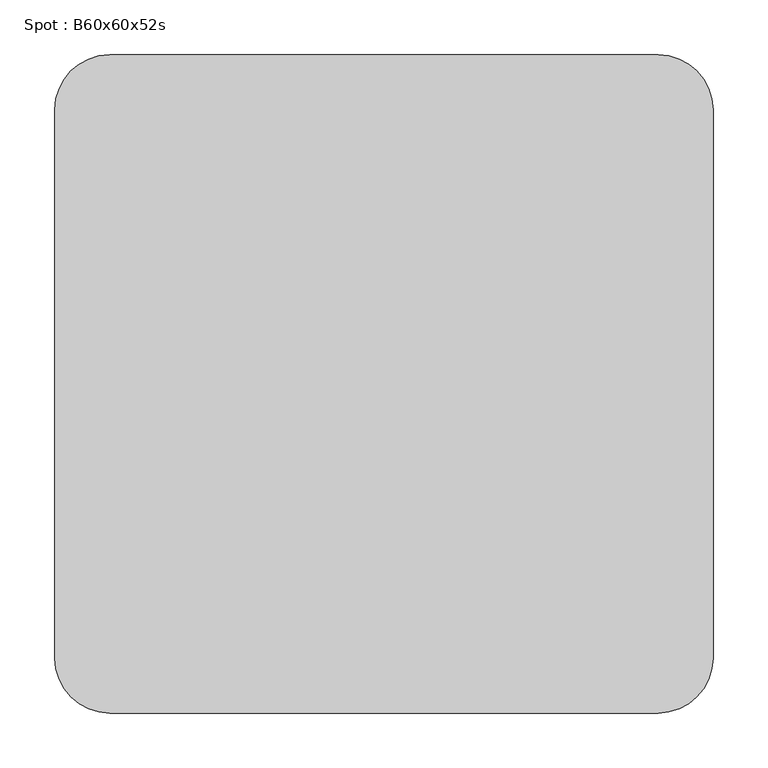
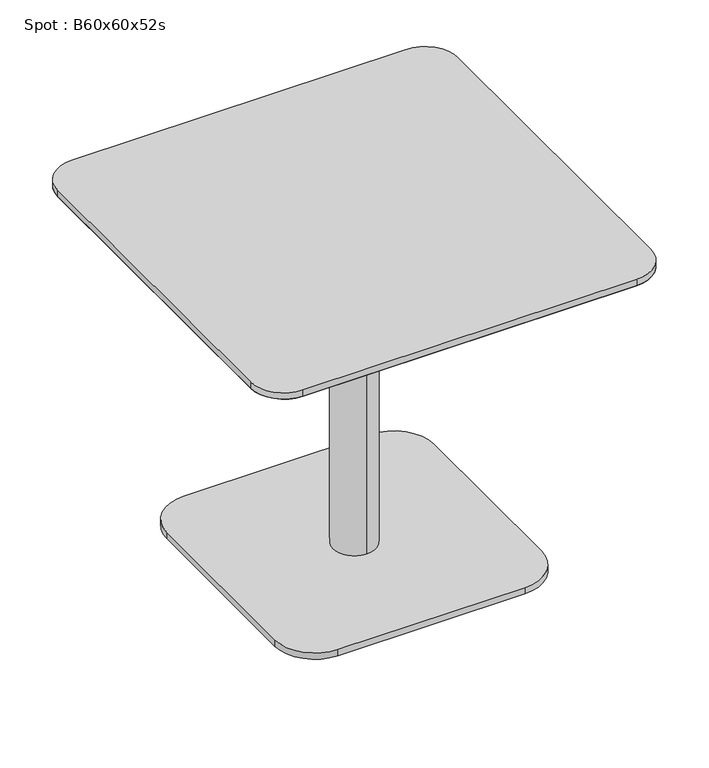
"""IFC4 building model written with IfcOpenShell, lengths in millimetres: furniture geometry, Spot : B60x60x52s."""

from ifc_helpers import new_model, si_unit, point, frame, frame_2d, origin, origin_with_axes, place, context, project, spatial, polyline, circle_curve, trimmed, segment, composite_curve, outline, extrude, source, transform, mapped, element, save
from ifc_brep_helpers import plane_surface, cylinder_surface, revolved_surface, advanced_brep


def spot_b60x60x52s_51aa52b7(model_context):
    return source(origin(), model_context, "Body", "SolidModel", [
        advanced_brep(
        [(-250.0, -250.0, 498.0), (-250.0, 250.0, 498.0), (250.0, 250.0, 498.0), (250.0, -250.0, 498.0), (-300.0, -250.0, 510.0), (-250.0, -300.0, 510.0), (250.0, -300.0, 510.0), (300.0, -250.0, 510.0), (300.0, 250.0, 510.0), (250.0, 300.0, 510.0), (-250.0, 300.0, 510.0), (-300.0, 250.0, 510.0)],
        [
            (0, 1),
            (1, 2),
            (2, 3),
            (3, 0),
            (4, 5, circle_curve(frame((-250.0, -250.0, 510.0), z_axis=(0.0, 0.0, 1.0), x_axis=(0.0, -1.0, 0.0)), 50.0)),
            (5, 6),
            (6, 7, circle_curve(frame((250.0, -250.0, 510.0), z_axis=(0.0, 0.0, 1.0), x_axis=(1.0, 0.0, 0.0)), 50.0)),
            (7, 8),
            (8, 9, circle_curve(frame((250.0, 250.0, 510.0), z_axis=(0.0, 0.0, 1.0), x_axis=(0.0, 1.0, 0.0)), 50.0)),
            (9, 10),
            (10, 11, circle_curve(frame((-250.0, 250.0, 510.0), z_axis=(0.0, 0.0, 1.0), x_axis=(-1.0, 0.0, 0.0)), 50.0)),
            (11, 4),
            (4, 0),
            (0, 5),
            (3, 6),
            (3, 7),
            (2, 8),
            (2, 9),
            (1, 10),
            (1, 11),
        ],
        [
            plane_surface(frame((0.0, 0.0, 498.0), z_axis=(0.0, 0.0, -1.0), x_axis=(-1.0, 0.0, 0.0))),
            plane_surface(frame((0.0, 0.0, 510.0), z_axis=(0.0, 0.0, 1.0), x_axis=(-1.0, 0.0, 0.0))),
            revolved_surface(polyline([(-250.0, -250.0, 498.0), (-250.0, -300.0, 510.0)]), (-250.0, -250.0, 498.0), (0.0, 0.0, 1.0)),
            plane_surface(frame((0.0, -300.0, 510.0), z_axis=(0.0, -0.23337295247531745, -0.9723873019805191), x_axis=(-1.0, 0.0, 0.0))),
            revolved_surface(polyline([(250.0, -250.0, 498.0), (300.0, -250.0, 510.0)]), (250.0, -250.0, 498.0), (0.0, 0.0, 1.0)),
            plane_surface(frame((300.0, 0.0, 510.0), z_axis=(0.23337295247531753, 0.0, -0.9723873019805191), x_axis=(0.0, -1.0, 0.0))),
            revolved_surface(polyline([(250.0, 250.0, 498.0), (250.0, 300.0, 510.0)]), (250.0, 250.0, 498.0), (0.0, 0.0, 1.0)),
            plane_surface(frame((0.0, 300.0, 510.0), z_axis=(0.0, 0.23337295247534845, -0.9723873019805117), x_axis=(1.0, 0.0, 0.0))),
            revolved_surface(polyline([(-250.0, 250.0, 498.0), (-300.0, 250.0, 510.0)]), (-250.0, 250.0, 498.0), (0.0, 0.0, 1.0)),
            plane_surface(frame((-300.0, 0.0, 510.0), z_axis=(-0.2333729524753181, 0.0, -0.9723873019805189), x_axis=(0.0, 1.0, 0.0))),
        ],
        [
            (0, [[1, 2, 3, 4]]),
            (1, [[5, 6, 7, 8, 9, 10, 11, 12]]),
            (2, [[-5, 13, 14]]),
            (3, [[-6, -14, -4, 15]]),
            (4, [[-7, -15, 16]]),
            (5, [[-8, -16, -3, 17]]),
            (6, [[-9, -17, 18]]),
            (7, [[-10, -18, -2, 19]]),
            (8, [[-11, -19, 20]]),
            (9, [[-12, -20, -1, -13]]),
        ],
    ),
        extrude(outline(composite_curve([segment(trimmed(circle_curve(frame_2d((250.0, 250.0)), 50.0), [point((250.0, 300.0))], [point((300.0, 250.0))], False, "CARTESIAN"), True, "CONTINUOUS"), segment(polyline([(300.0, 250.0), (300.0, -250.0)]), True, "CONTINUOUS"), segment(trimmed(circle_curve(frame_2d((250.0, -250.0)), 50.0), [point((300.0, -250.0))], [point((250.0, -300.0))], False, "CARTESIAN"), True, "CONTINUOUS"), segment(polyline([(250.0, -300.0), (-250.0, -300.0)]), True, "CONTINUOUS"), segment(trimmed(circle_curve(frame_2d((-250.0, -250.0)), 50.0), [point((-250.0, -300.0))], [point((-300.0, -250.0))], False, "CARTESIAN"), True, "CONTINUOUS"), segment(polyline([(-300.0, -250.0), (-300.0, 250.0)]), True, "CONTINUOUS"), segment(trimmed(circle_curve(frame_2d((-250.0, 250.0)), 50.0), [point((-300.0, 250.0))], [point((-250.0, 300.0))], False, "CARTESIAN"), True, "CONTINUOUS"), segment(polyline([(-250.0, 300.0), (250.0, 300.0)]), True, "CONTINUOUS")], self_intersect=False)), frame((0.0, 0.0, 510.0), z_axis=(0.0, 0.0, 1.0), x_axis=(1.0, 0.0, 0.0)), (0.0, 0.0, 1.0), 10.0),
        extrude(outline(composite_curve([segment(trimmed(circle_curve(frame_2d((140.0, 140.0)), 60.0), [point((140.0, 200.0))], [point((200.0, 140.0))], False, "CARTESIAN"), True, "CONTINUOUS"), segment(polyline([(200.0, 140.0), (200.0, -140.0)]), True, "CONTINUOUS"), segment(trimmed(circle_curve(frame_2d((140.0, -140.0)), 60.0), [point((200.0, -140.0))], [point((140.0, -200.0))], False, "CARTESIAN"), True, "CONTINUOUS"), segment(polyline([(140.0, -200.0), (-140.0, -200.0)]), True, "CONTINUOUS"), segment(trimmed(circle_curve(frame_2d((-140.0, -140.0)), 60.0), [point((-140.0, -200.0))], [point((-200.0, -140.0))], False, "CARTESIAN"), True, "CONTINUOUS"), segment(polyline([(-200.0, -140.0), (-200.0, 140.0)]), True, "CONTINUOUS"), segment(trimmed(circle_curve(frame_2d((-140.0, 140.0)), 60.0), [point((-200.0, 140.0))], [point((-140.0, 200.0))], False, "CARTESIAN"), True, "CONTINUOUS"), segment(polyline([(-140.0, 200.0), (140.0, 200.0)]), True, "CONTINUOUS")], self_intersect=False)), origin_with_axes(), (0.0, 0.0, 1.0), 10.0),
        advanced_brep(
        [(0.0, 32.0, 10.0), (0.0, -32.0, 10.0), (0.0, -32.0, 467.406916), (0.0, 32.0, 467.406916), (0.0, 0.0, 10.0), (0.0, 150.0, 498.0), (0.0, -150.0, 498.0), (0.0, 0.0, 498.0), (0.0, 150.0, 486.7213673), (0.0, -150.0, 486.7213673)],
        [
            (0, 1, circle_curve(frame((0.0, 0.0, 10.0), z_axis=(0.0, 0.0, 1.0), x_axis=(0.0, -1.0, 0.0)), 32.0)),
            (1, 2),
            (2, 3, circle_curve(frame((0.0, 0.0, 467.406916), z_axis=(0.0, 0.0, -1.0), x_axis=(0.0, -1.0, 0.0)), 32.0)),
            (3, 0),
            (1, 0, circle_curve(frame((0.0, 0.0, 10.0), z_axis=(0.0, 0.0, 1.0), x_axis=(0.0, -1.0, 0.0)), 32.0)),
            (3, 2, circle_curve(frame((0.0, 0.0, 467.406916), z_axis=(0.0, 0.0, -1.0), x_axis=(0.0, -1.0, 0.0)), 32.0)),
            (4, 1),
            (0, 4),
            (5, 6, circle_curve(frame((0.0, 0.0, 498.0), z_axis=(0.0, 0.0, 1.0), x_axis=(0.0, -1.0, 0.0)), 150.0)),
            (6, 7),
            (7, 5),
            (6, 5, circle_curve(frame((0.0, 0.0, 498.0), z_axis=(0.0, 0.0, 1.0), x_axis=(0.0, -1.0, 0.0)), 150.0)),
            (8, 9, circle_curve(frame((0.0, 0.0, 486.7213673), z_axis=(0.0, 0.0, 1.0), x_axis=(0.0, -1.0, 0.0)), 150.0)),
            (9, 6),
            (5, 8),
            (9, 8, circle_curve(frame((0.0, 0.0, 486.7213673), z_axis=(0.0, 0.0, 1.0), x_axis=(0.0, -1.0, 0.0)), 150.0)),
            (2, 9),
            (8, 3),
        ],
        [
            cylinder_surface(frame((0.0, 0.0, 860.0), z_axis=(0.0, 0.0, -1.0), x_axis=(0.0, -1.0, 0.0)), 32.0),
            plane_surface(frame((0.0, 0.0, 10.0), z_axis=(0.0, 0.0, -1.0), x_axis=(0.0, -1.0, 0.0))),
            plane_surface(frame((0.0, 0.0, 498.0), z_axis=(0.0, 0.0, 1.0), x_axis=(0.0, -1.0, 0.0))),
            cylinder_surface(frame((0.0, 0.0, 860.0), z_axis=(0.0, 0.0, -1.0), x_axis=(0.0, -1.0, 0.0)), 150.0),
            revolved_surface(polyline([(0.0, -150.0, 486.7213673), (0.0, -32.0, 467.406916)]), (0.0, 0.0, 860.0), (0.0, 0.0, -1.0)),
        ],
        [
            (0, [[1, 2, 3, 4]]),
            (0, [[5, -4, 6, -2]]),
            (1, [[7, -1, 8]]),
            (1, [[-8, -5, -7]]),
            (2, [[9, 10, 11]]),
            (2, [[12, -11, -10]]),
            (3, [[13, 14, -9, 15]]),
            (3, [[16, -15, -12, -14]]),
            (4, [[-3, 17, -13, 18]]),
            (4, [[-6, -18, -16, -17]]),
        ],
    ),
        extrude(outline(polyline([(0.0, 0.0), (-20.0, 0.0), (-20.0, 20.0), (0.0, 20.0), (0.0, 0.0)])), origin_with_axes(), (0.0, 0.0, 1.0), 10.0),
    ])


if __name__ == "__main__":
    model = new_model("IFC4")
    model_context = context("Model", 3, world=origin())
    ifc_project = project(units=[si_unit("LENGTHUNIT", "METRE", prefix="MILLI")], contexts=[model_context])
    site = spatial("IfcSite", under=ifc_project)
    building = spatial("IfcBuilding", under=site)
    placement = place(None, origin())
    spot_b60x60x52s_shape = spot_b60x60x52s_51aa52b7(model_context)
    element("IfcFurniture", 1, ObjectType="Spot : B60x60x52s", at=placement, inside=building, context=model_context, shape_type="MappedRepresentation", body=[
        mapped(spot_b60x60x52s_shape, transform((0.0, 0.0, 0.0), x_axis=(1.0, 0.0, 0.0), y_axis=(0.0, 1.0, 0.0), z_axis=(0.0, 0.0, 1.0))),
    ])
    save(model, "model.ifc")
